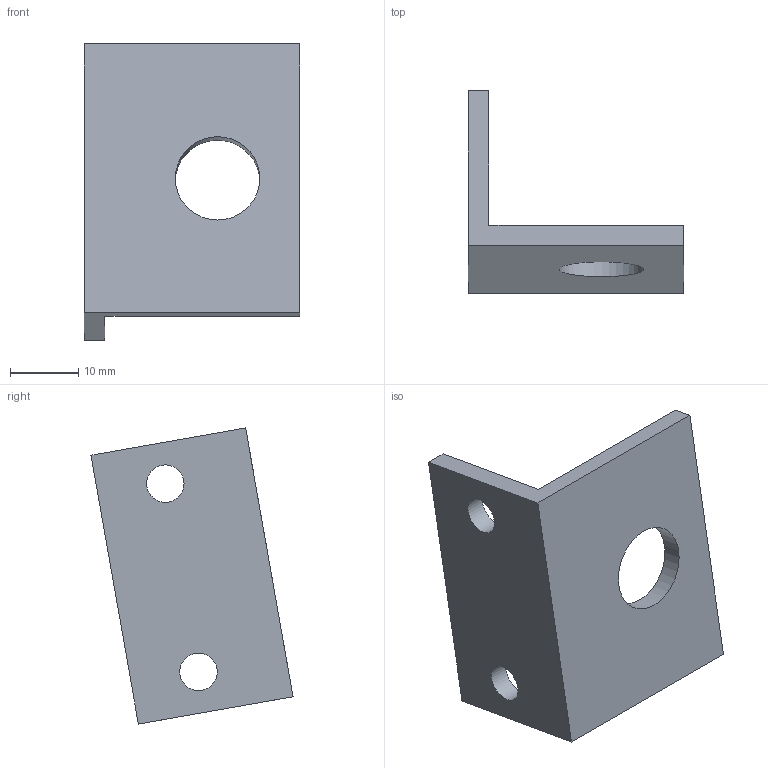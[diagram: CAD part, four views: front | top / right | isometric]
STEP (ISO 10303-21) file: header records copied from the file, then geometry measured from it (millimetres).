
FILE_DESCRIPTION(('golf model'),'2;1');
FILE_NAME('golf','',(''),(''),'golf_step_io','golf','');
FILE_SCHEMA(('AUTOMOTIVE_DESIGN { 1 0 10303 214 1 1 1 1 }'));
Length unit declared in the file: millimetre
Products named in the file (2): ASSEMBLY; sensors.x_home_bottom_bracket
Assembly tree (1 placements, depth 2):
  ASSEMBLY
    sensors.x_home_bottom_bracket
Bounding box: 31.5 x 29.6 x 43.39 mm (x, y, z)
Volume: 5675.2 mm3; surface area: 4553 mm2
Topology: 1 solids, 1 shells, 11 faces, 27 edges, 18 vertices
Faces by surface type: plane 8, cylinder 3
Full cylindrical faces by diameter (mm): 5.5 x2, 12.4 x1
Entity records: 358 total; most frequent: DIRECTION 56, CARTESIAN_POINT 55, ORIENTED_EDGE 48, EDGE_CURVE 24, EDGE_LOOP 20, AXIS2_PLACEMENT_3D 19, VERTEX_POINT 18, VECTOR 18
